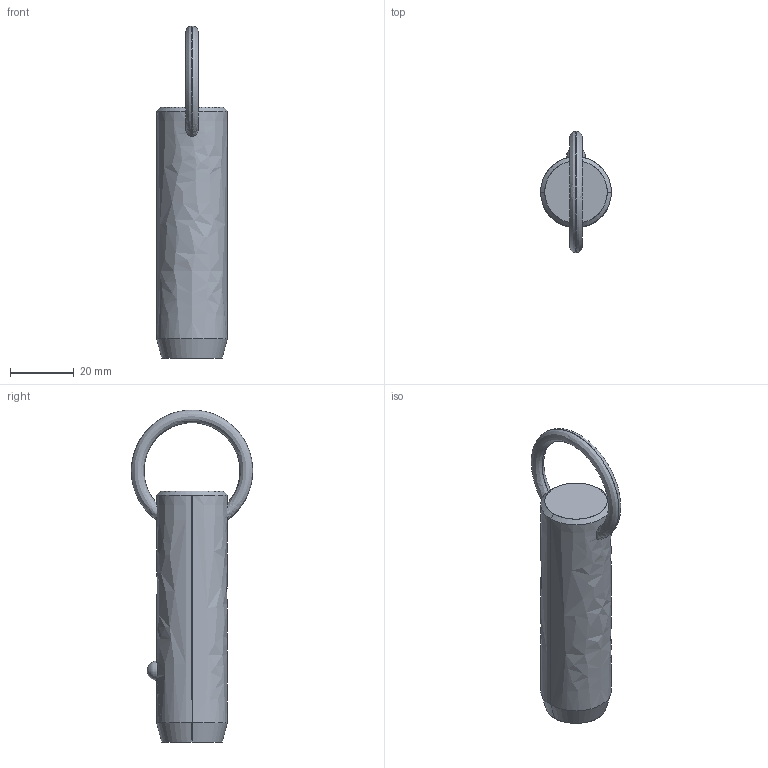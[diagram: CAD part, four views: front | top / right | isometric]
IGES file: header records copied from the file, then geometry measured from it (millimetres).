
Start section: SolidWorks IGES file using analytic representation for surfaces
Global section: file name: C:\Users\liam_\OneDrive\Documents\WORK\Work for WixRoyd\Job Files\J-00019 - Matt Davis CAD Checking\04. CAD Drawings\automotion20190605\P1250.2_v2\P1250.2_v2_20190729_IGES\P1250.087-160.igs; native system: SolidWorks 2017; preprocessor: SolidWorks 2017; author: liam_; date: 190730.000525; units: millimetre
Bounding box: 22.2 x 38.1 x 104.1 mm (x, y, z)
Surface area: 7132.6 mm2 (no closed solid volume)
Topology: 0 solids, 0 shells, 12 faces, 302 edges, 300 vertices
Faces by surface type: revolution 8, bspline 4
